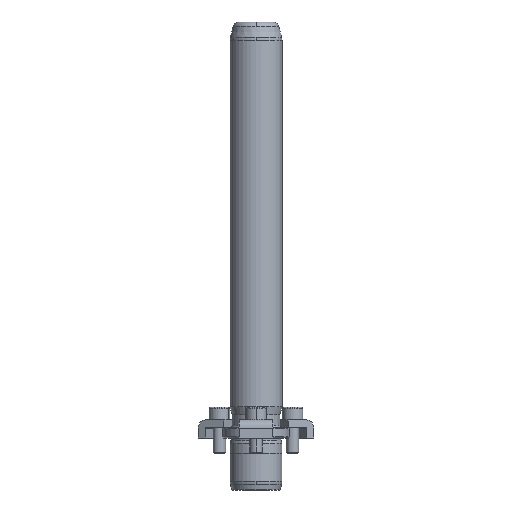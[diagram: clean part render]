
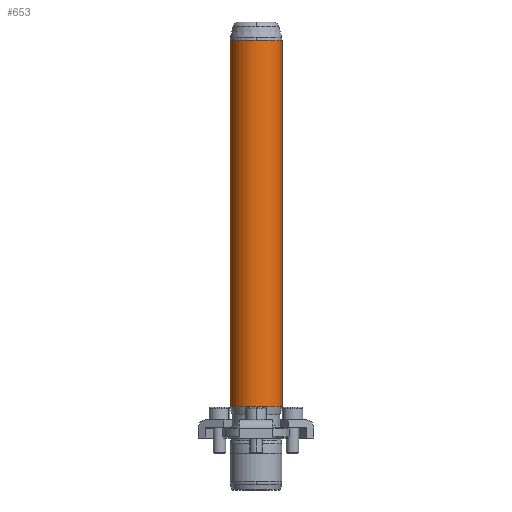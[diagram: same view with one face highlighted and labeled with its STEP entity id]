
A CAD part, front view. The second image highlights one B-rep face of the part: STEP entity #653.
In plain terms, the highlighted cylindrical face has radius 12.5 mm (diameter 25 mm), a partial arc.
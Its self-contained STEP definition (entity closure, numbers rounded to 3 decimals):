
#566=CARTESIAN_POINT('',(0.0,-12.5,191.342));
#567=VERTEX_POINT('',#566);
#594=CARTESIAN_POINT('',(-12.5,0.,191.342));
#595=VERTEX_POINT('',#594);
#603=CARTESIAN_POINT('',(0.0,0.,191.342));
#604=DIRECTION('',(0.0,0.0,1.0));
#605=DIRECTION('',(1.0,0.0,0.0));
#606=AXIS2_PLACEMENT_3D('',#603,#604,#605);
#607=CIRCLE('',#606,12.5);
#608=EDGE_CURVE('',#595,#567,#607,.T.);
#613=CARTESIAN_POINT('',(0.0,0.,103.171));
#614=DIRECTION('',(0.0,0.,1.0));
#615=DIRECTION('',(1.0,0.0,0.0));
#616=AXIS2_PLACEMENT_3D('',#613,#614,#615);
#617=CYLINDRICAL_SURFACE('',#616,12.5);
#618=CARTESIAN_POINT('',(12.5,0.,191.342));
#619=VERTEX_POINT('',#618);
#620=CARTESIAN_POINT('',(12.5,0.,15.0));
#621=VERTEX_POINT('',#620);
#622=CARTESIAN_POINT('',(12.5,0.,191.342));
#623=DIRECTION('',(0.0,0.0,-1.0));
#624=VECTOR('',#623,176.342);
#625=LINE('',#622,#624);
#626=EDGE_CURVE('',#619,#621,#625,.T.);
#627=ORIENTED_EDGE('',*,*,#626,.F.);
#628=CARTESIAN_POINT('',(0.0,0.,191.342));
#629=DIRECTION('',(0.0,0.0,1.0));
#630=DIRECTION('',(1.0,0.0,0.0));
#631=AXIS2_PLACEMENT_3D('',#628,#629,#630);
#632=CIRCLE('',#631,12.5);
#633=EDGE_CURVE('',#567,#619,#632,.T.);
#634=ORIENTED_EDGE('',*,*,#633,.F.);
#635=ORIENTED_EDGE('',*,*,#608,.F.);
#636=CARTESIAN_POINT('',(-12.5,0.,15.0));
#637=VERTEX_POINT('',#636);
#638=CARTESIAN_POINT('',(-12.5,0.,191.342));
#639=DIRECTION('',(0.0,0.0,-1.0));
#640=VECTOR('',#639,176.342);
#641=LINE('',#638,#640);
#642=EDGE_CURVE('',#595,#637,#641,.T.);
#643=ORIENTED_EDGE('',*,*,#642,.T.);
#644=CARTESIAN_POINT('',(0.0,0.,15.0));
#645=DIRECTION('',(0.0,0.0,1.0));
#646=DIRECTION('',(1.0,0.0,0.0));
#647=AXIS2_PLACEMENT_3D('',#644,#645,#646);
#648=CIRCLE('',#647,12.5);
#649=EDGE_CURVE('',#637,#621,#648,.T.);
#650=ORIENTED_EDGE('',*,*,#649,.T.);
#651=EDGE_LOOP('',(#627,#634,#635,#643,#650));
#652=FACE_OUTER_BOUND('',#651,.T.);
#653=ADVANCED_FACE('',(#652),#617,.T.);
